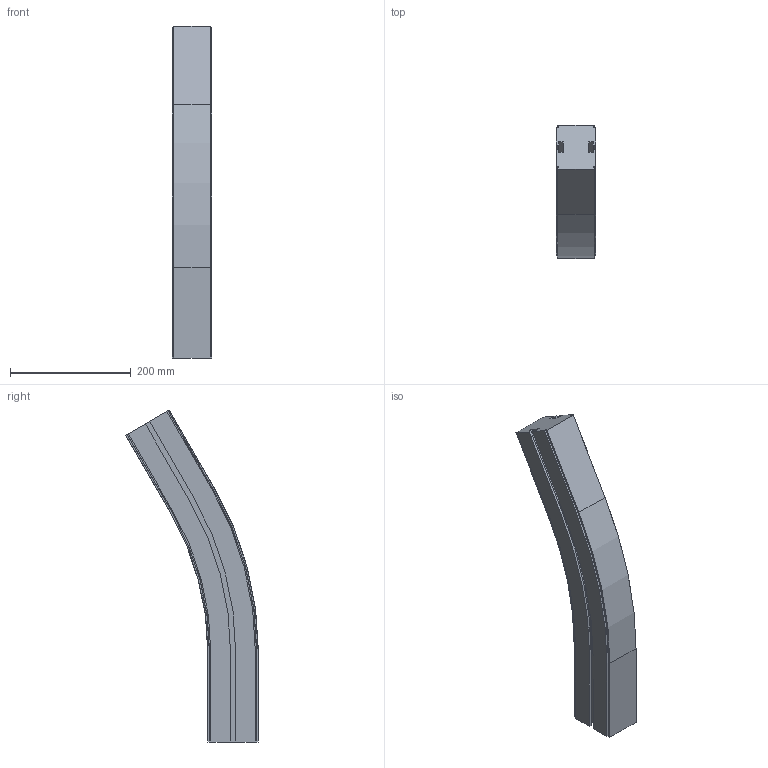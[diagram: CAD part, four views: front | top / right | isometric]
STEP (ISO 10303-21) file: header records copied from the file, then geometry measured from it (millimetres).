
FILE_DESCRIPTION (( 'STEP AP214' ), '1' );
FILE_NAME ('CS SL Verticaalbocht.65 30°.STEP', '2017-02-08T07:37:19', ( '' ), ( '' ), 'SwSTEP 2.0', 'SolidWorks 2016', '' );
FILE_SCHEMA (( 'AUTOMOTIVE_DESIGN' ));
Length unit declared in the file: millimetre
Products named in the file (1): CS SL Verticaalbocht.65 30°
Bounding box: 65 x 220.36 x 550.9 mm (x, y, z)
Volume: 2839688 mm3; surface area: 237053.6 mm2
Topology: 1 solids, 1 shells, 98 faces, 272 edges, 176 vertices
Faces by surface type: plane 72, cylinder 18, cone 8
Entity records: 3126 total; most frequent: CARTESIAN_POINT 547, ORIENTED_EDGE 544, DIRECTION 514, EDGE_CURVE 272, VECTOR 228, LINE 228, VERTEX_POINT 176, AXIS2_PLACEMENT_3D 143
